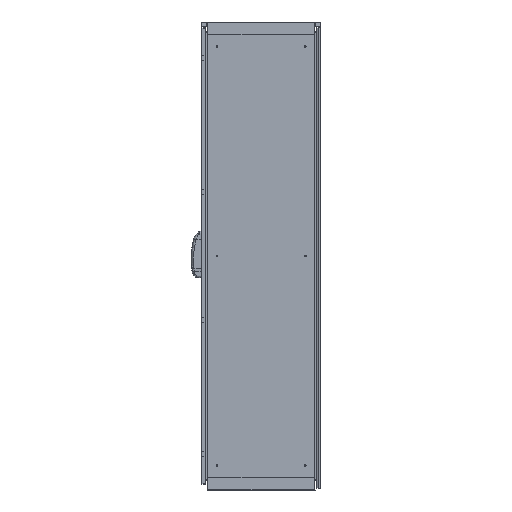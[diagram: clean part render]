
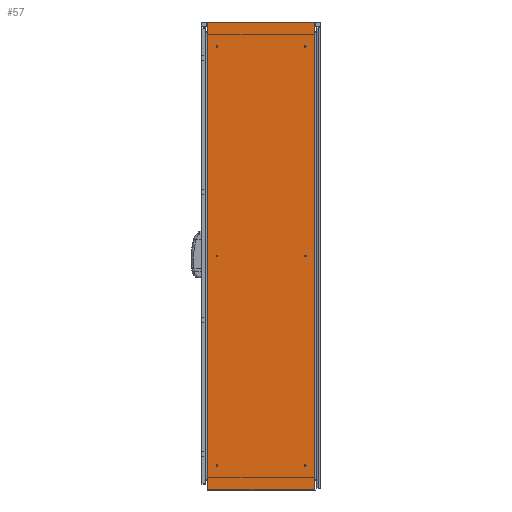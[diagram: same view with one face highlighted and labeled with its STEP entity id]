
A CAD part, left-side view. The second image highlights one B-rep face of the part: STEP entity #57.
In plain terms, the highlighted planar face has unit normal (-1, 0, 0).
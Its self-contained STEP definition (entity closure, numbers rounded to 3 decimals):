
#57 = ADVANCED_FACE ( 'NONE', ( #73815 ), #12980, .F. ) ;
#3319 = LINE ( 'NONE', #84548, #68077 ) ;
#3884 = VERTEX_POINT ( 'NONE', #21754 ) ;
#4480 = VECTOR ( 'NONE', #60786, 1000. ) ;
#5025 = CARTESIAN_POINT ( 'NONE',  ( -500., -229.43, 2009. ) ) ;
#5703 = CARTESIAN_POINT ( 'NONE',  ( -500., -229.43, 0. ) ) ;
#6339 = DIRECTION ( 'NONE',  ( 1., 0., 0. ) ) ;
#6614 = CARTESIAN_POINT ( 'NONE',  ( -500., -229.43, 2009. ) ) ;
#7632 = CARTESIAN_POINT ( 'NONE',  ( -500., 233.5, 2009. ) ) ;
#9135 = VECTOR ( 'NONE', #85860, 1000. ) ;
#10780 = CARTESIAN_POINT ( 'NONE',  ( -500., 233.5, 2009. ) ) ;
#12980 = PLANE ( 'NONE',  #17124 ) ;
#13121 = CARTESIAN_POINT ( 'NONE',  ( -500., 229.43, 0. ) ) ;
#17124 = AXIS2_PLACEMENT_3D ( 'NONE', #7632, #6339, #40097 ) ;
#18357 = CARTESIAN_POINT ( 'NONE',  ( -500., 233.5, 0. ) ) ;
#21592 = EDGE_CURVE ( 'NONE', #78117, #64971, #58797, .T. ) ;
#21754 = CARTESIAN_POINT ( 'NONE',  ( -500., 229.43, 2009. ) ) ;
#40097 = DIRECTION ( 'NONE',  ( 0., 0., -1. ) ) ;
#40698 = VERTEX_POINT ( 'NONE', #5025 ) ;
#40805 = LINE ( 'NONE', #6614, #4480 ) ;
#44798 = ORIENTED_EDGE ( 'NONE', *, *, #83543, .T. ) ;
#51013 = EDGE_CURVE ( 'NONE', #64971, #40698, #40805, .T. ) ;
#51686 = DIRECTION ( 'NONE',  ( 0., -1., 0. ) ) ;
#58797 = LINE ( 'NONE', #18357, #9135 ) ;
#60786 = DIRECTION ( 'NONE',  ( 0., 0., 1. ) ) ;
#63955 = ORIENTED_EDGE ( 'NONE', *, *, #65292, .F. ) ;
#64087 = ORIENTED_EDGE ( 'NONE', *, *, #21592, .T. ) ;
#64971 = VERTEX_POINT ( 'NONE', #5703 ) ;
#65292 = EDGE_CURVE ( 'NONE', #3884, #40698, #71644, .T. ) ;
#67001 = VECTOR ( 'NONE', #51686, 1000. ) ;
#68077 = VECTOR ( 'NONE', #78339, 1000. ) ;
#71644 = LINE ( 'NONE', #10780, #67001 ) ;
#73815 = FACE_OUTER_BOUND ( 'NONE', #85043, .T. ) ;
#78117 = VERTEX_POINT ( 'NONE', #13121 ) ;
#78339 = DIRECTION ( 'NONE',  ( 0., 0., -1. ) ) ;
#83543 = EDGE_CURVE ( 'NONE', #3884, #78117, #3319, .T. ) ;
#84403 = ORIENTED_EDGE ( 'NONE', *, *, #51013, .T. ) ;
#84548 = CARTESIAN_POINT ( 'NONE',  ( -500., 229.43, 2009. ) ) ;
#85043 = EDGE_LOOP ( 'NONE', ( #64087, #84403, #63955, #44798 ) ) ;
#85860 = DIRECTION ( 'NONE',  ( 0., -1., 0. ) ) ;
